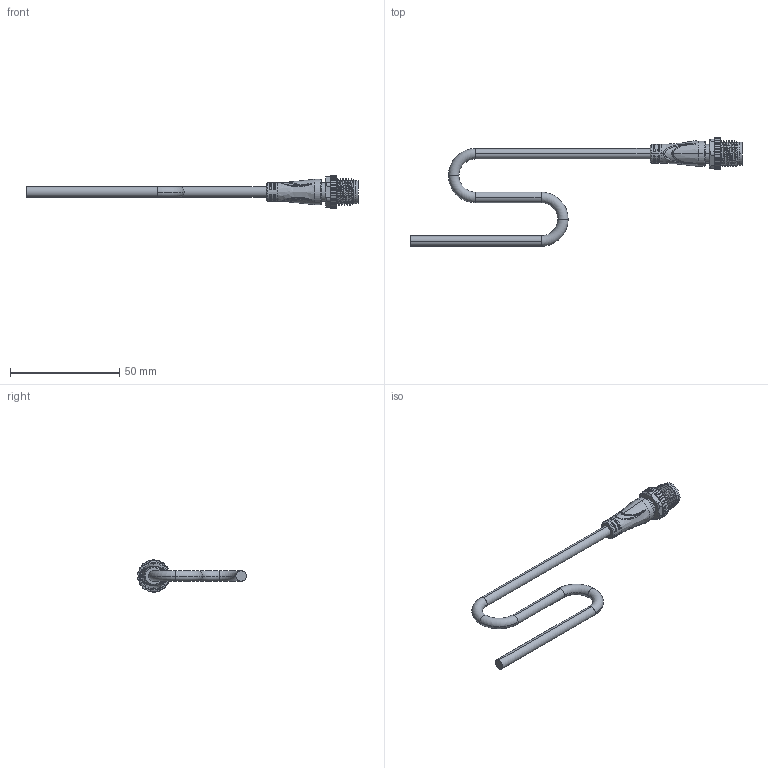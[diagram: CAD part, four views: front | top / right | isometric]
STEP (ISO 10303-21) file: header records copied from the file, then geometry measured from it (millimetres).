
FILE_DESCRIPTION (( 'STEP AP214' ), '1' );
FILE_NAME ('M12眻芛5P鼠傷.STEP', '2024-12-20T10:13:54', ( 'Windows User' ), ( 'P R C' ), 'SwSTEP 2.0', 'SolidWorks 2023', '' );
FILE_SCHEMA (( 'AUTOMOTIVE_DESIGN' ));
Length unit declared in the file: millimetre
Products named in the file (6): 导线_φ4.8; SD1100808-M12滚花螺栓（外螺纹对边13）-A0; SD1705308-M12-5P公端插座-A0; M12直头5P公端; M12-0°包胶_M12-5P 直头; SD1705290-M12公端插针-A1
Assembly tree (9 placements, depth 2):
  M12直头5P公端
    SD1100808-M12滚花螺栓（外螺纹对边13）-A0
    SD1705290-M12公端插针-A1  x5
    导线_φ4.8
    M12-0°包胶_M12-5P 直头
    SD1705308-M12-5P公端插座-A0
Bounding box: 152 x 49.76 x 14.8 mm (x, y, z)
Volume: 7604.5 mm3; surface area: 8279.3 mm2
Topology: 4 solids, 14 shells, 1436 faces, 3851 edges, 2448 vertices
Faces by surface type: plane 644, cylinder 480, cone 138, torus 90, bspline 69, sphere 15
Entity records: 31064 total; most frequent: CARTESIAN_POINT 13391, ORIENTED_EDGE 3830, DIRECTION 3568, EDGE_CURVE 1925, AXIS2_PLACEMENT_3D 1373, VERTEX_POINT 1232, LINE 822, VECTOR 822
